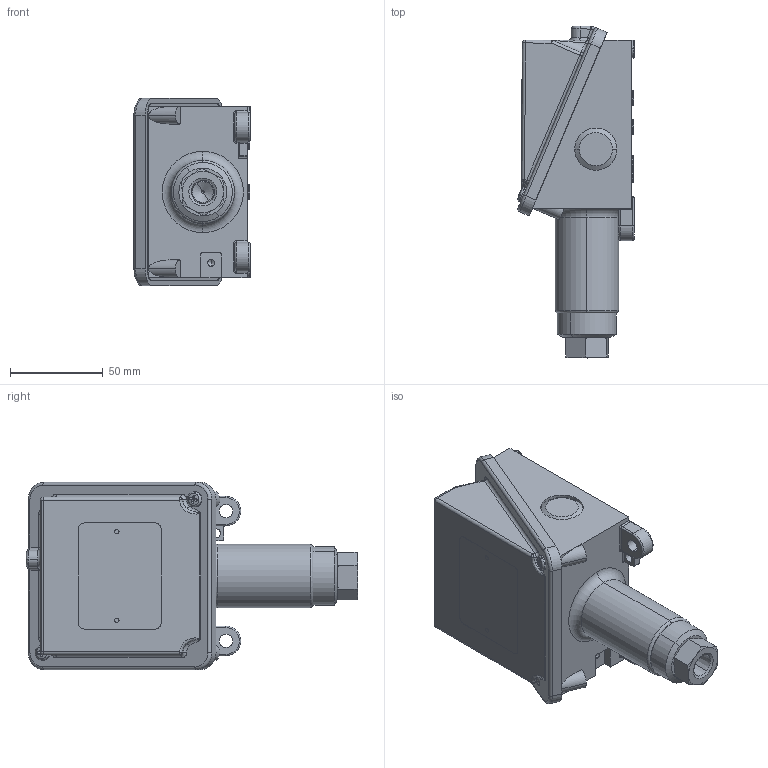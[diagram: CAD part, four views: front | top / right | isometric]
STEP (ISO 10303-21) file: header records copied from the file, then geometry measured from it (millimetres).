
FILE_DESCRIPTION (( 'STEP AP214' ), '1' );
FILE_NAME ('H100-270, 274, 358, 361, 376, 680_V2.STEP', '2025-02-21T19:43:09', ( '' ), ( '' ), 'SwSTEP 2.0', 'SolidWorks 2023', '' );
FILE_SCHEMA (( 'AUTOMOTIVE_DESIGN' ));
Length unit declared in the file: inch
Products named in the file (1): H100-270, 274, 358, 361, 376, 680_V2
Bounding box: 62.62 x 178.67 x 100.84 mm (x, y, z)
Volume: 195483.4 mm3; surface area: 119155.8 mm2
Topology: 8 solids, 8 shells, 865 faces, 2027 edges, 1191 vertices
Faces by surface type: cylinder 362, plane 248, torus 109, cone 74, bspline 36, sphere 36
Entity records: 25960 total; most frequent: CARTESIAN_POINT 6070, DIRECTION 4436, ORIENTED_EDGE 3966, EDGE_CURVE 1983, AXIS2_PLACEMENT_3D 1771, VERTEX_POINT 1191, EDGE_LOOP 948, CIRCLE 941
